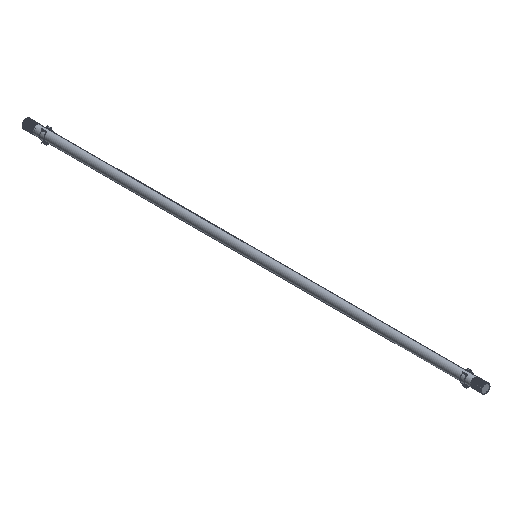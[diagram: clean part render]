
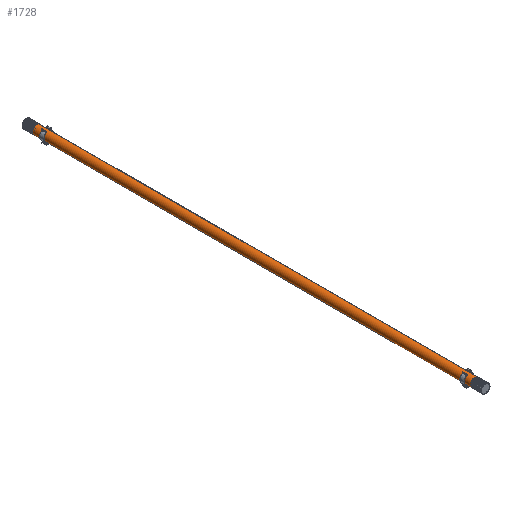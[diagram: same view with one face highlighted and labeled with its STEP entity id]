
A CAD part, isometric view. The second image highlights one B-rep face of the part: STEP entity #1728.
In plain terms, the highlighted cylindrical face has radius 10 mm (diameter 20 mm), a partial arc.
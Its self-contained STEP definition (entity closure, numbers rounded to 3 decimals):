
#38 = LINE ( 'NONE', #3613, #1517 ) ;
#48 = DIRECTION ( 'NONE',  ( 0., 0., -1. ) ) ;
#178 = CARTESIAN_POINT ( 'NONE',  ( 0., 0., 0. ) ) ;
#327 = DIRECTION ( 'NONE',  ( -1., 0., 0. ) ) ;
#430 = VERTEX_POINT ( 'NONE', #1574 ) ;
#637 = AXIS2_PLACEMENT_3D ( 'NONE', #8828, #6907, #6013 ) ;
#1517 = VECTOR ( 'NONE', #6094, 1000. ) ;
#1574 = CARTESIAN_POINT ( 'NONE',  ( 10., 0., 0. ) ) ;
#1728 = ADVANCED_FACE ( 'NONE', ( #6026 ), #5618, .T. ) ;
#2068 = VECTOR ( 'NONE', #48, 1000. ) ;
#2160 = CIRCLE ( 'NONE', #3922, 10. ) ;
#2536 = AXIS2_PLACEMENT_3D ( 'NONE', #10052, #4937, #11036 ) ;
#3118 = VERTEX_POINT ( 'NONE', #7965 ) ;
#3613 = CARTESIAN_POINT ( 'NONE',  ( -10., 0., 1012. ) ) ;
#3922 = AXIS2_PLACEMENT_3D ( 'NONE', #178, #8977, #327 ) ;
#4042 = EDGE_CURVE ( 'NONE', #8945, #5320, #7862, .T. ) ;
#4184 = EDGE_CURVE ( 'NONE', #430, #3118, #2160, .T. ) ;
#4452 = CARTESIAN_POINT ( 'NONE',  ( 10., 0., 1012. ) ) ;
#4492 = ORIENTED_EDGE ( 'NONE', *, *, #4042, .T. ) ;
#4937 = DIRECTION ( 'NONE',  ( 0., 0., -1. ) ) ;
#5320 = VERTEX_POINT ( 'NONE', #4452 ) ;
#5618 = CYLINDRICAL_SURFACE ( 'NONE', #637, 10. ) ;
#5802 = EDGE_CURVE ( 'NONE', #5320, #430, #9117, .T. ) ;
#5852 = ORIENTED_EDGE ( 'NONE', *, *, #4184, .T. ) ;
#6013 = DIRECTION ( 'NONE',  ( -1., 0., 0. ) ) ;
#6026 = FACE_OUTER_BOUND ( 'NONE', #10883, .T. ) ;
#6094 = DIRECTION ( 'NONE',  ( 0., 0., -1. ) ) ;
#6225 = ORIENTED_EDGE ( 'NONE', *, *, #5802, .T. ) ;
#6907 = DIRECTION ( 'NONE',  ( 0., 0., -1. ) ) ;
#6945 = EDGE_CURVE ( 'NONE', #8945, #3118, #38, .T. ) ;
#7007 = ORIENTED_EDGE ( 'NONE', *, *, #6945, .F. ) ;
#7862 = CIRCLE ( 'NONE', #2536, 10. ) ;
#7965 = CARTESIAN_POINT ( 'NONE',  ( -10., 0., 0. ) ) ;
#8828 = CARTESIAN_POINT ( 'NONE',  ( 0., 0., 1012. ) ) ;
#8945 = VERTEX_POINT ( 'NONE', #9780 ) ;
#8977 = DIRECTION ( 'NONE',  ( 0., 0., 1. ) ) ;
#9117 = LINE ( 'NONE', #9636, #2068 ) ;
#9636 = CARTESIAN_POINT ( 'NONE',  ( 10., 0., 1012. ) ) ;
#9780 = CARTESIAN_POINT ( 'NONE',  ( -10., 0., 1012. ) ) ;
#10052 = CARTESIAN_POINT ( 'NONE',  ( 0., 0., 1012. ) ) ;
#10883 = EDGE_LOOP ( 'NONE', ( #4492, #6225, #5852, #7007 ) ) ;
#11036 = DIRECTION ( 'NONE',  ( -1., 0., 0. ) ) ;
